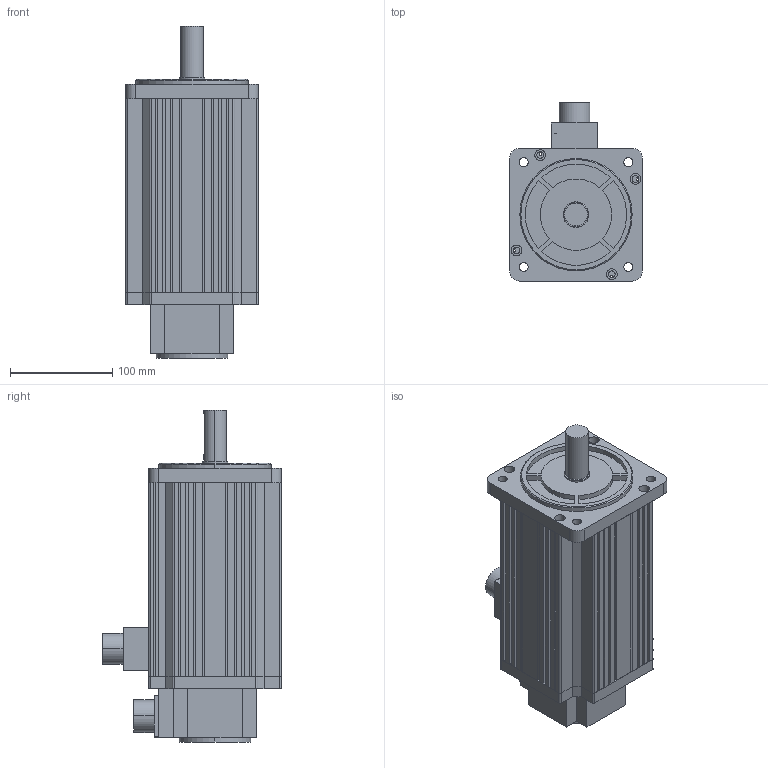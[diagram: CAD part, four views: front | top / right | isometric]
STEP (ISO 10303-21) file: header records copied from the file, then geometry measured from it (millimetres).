
FILE_DESCRIPTION (( 'STEP AP203' ), '1' );
FILE_NAME ('130-20010蚾饜极.STEP', '2018-08-27T09:32:52', ( 'jasonlin' ), ( '' ), 'SwSTEP 2.0', 'SolidWorks 2015', '' );
FILE_SCHEMA (( 'CONFIG_CONTROL_DESIGN' ));
Length unit declared in the file: millimetre
Products named in the file (8): 130侜督綴裔; 130侜督ヶ裔; 130粣; 130-20N-1000隅赽; 130瑤脣2; 130-20010蚾饜极; 130晤鎢ん; 130瑤脣
Assembly tree (7 placements, depth 2):
  130-20010蚾饜极
    130-20N-1000隅赽
    130侜督ヶ裔
    130侜督綴裔
    130粣
    130晤鎢ん
    130瑤脣2
    130瑤脣
Bounding box: 130 x 175 x 325 mm (x, y, z)
Volume: 1314253 mm3; surface area: 389710.5 mm2
Topology: 8 solids, 8 shells, 529 faces, 1333 edges, 872 vertices
Faces by surface type: plane 336, cylinder 177, cone 10, bspline 4, torus 2
Entity records: 16764 total; most frequent: CARTESIAN_POINT 2846, DIRECTION 2767, ORIENTED_EDGE 2650, EDGE_CURVE 1325, AXIS2_PLACEMENT_3D 923, VECTOR 921, LINE 921, VERTEX_POINT 872
